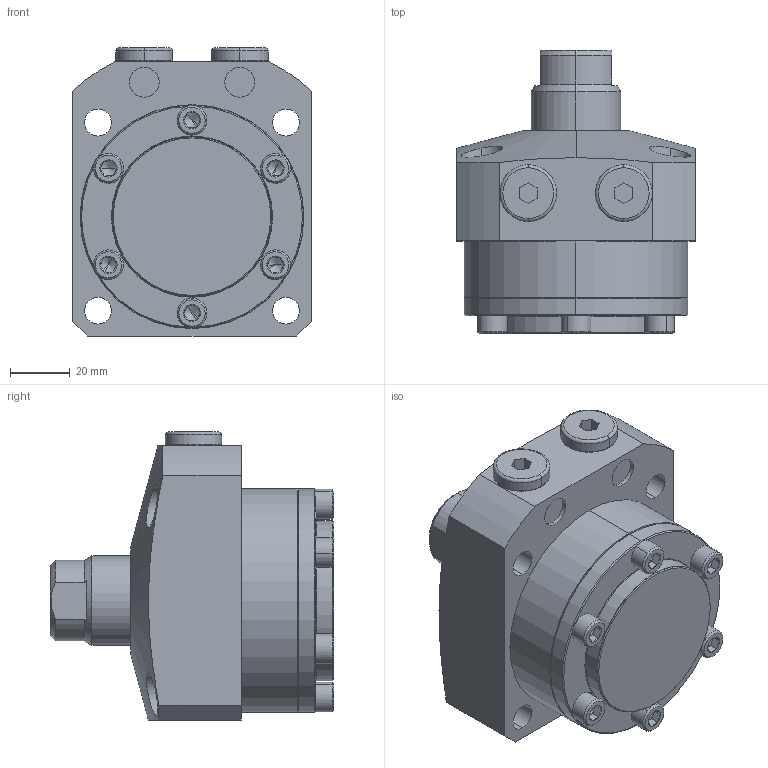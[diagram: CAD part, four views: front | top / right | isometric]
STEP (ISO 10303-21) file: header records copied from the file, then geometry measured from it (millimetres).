
FILE_DESCRIPTION (( 'STEP AP203' ), '1' );
FILE_NAME ('680750-CA-015.step', '2016-11-02T03:27:52', ( 'wxp' ), ( '' ), 'SwSTEP 2.0', 'SolidWorks 2011', '' );
FILE_SCHEMA (( 'CONFIG_CONTROL_DESIGN' ));
Length unit declared in the file: millimetre
Products named in the file (6): 680750-CA-015; 68075-CA-15-5^680750-CA-015; 68075-CA-15-4^680750-CA-015; 68075-CA-15-3^680750-CA-015; 68075-CA-15-2^680750-CA-015; 68075-CA-15-1^680750-CA-015
Assembly tree (11 placements, depth 2):
  680750-CA-015
    68075-CA-15-2^680750-CA-015
    68075-CA-15-4^680750-CA-015  x6
    68075-CA-15-3^680750-CA-015
    68075-CA-15-5^680750-CA-015  x2
    68075-CA-15-1^680750-CA-015
Bounding box: 80 x 95 x 96.5 mm (x, y, z)
Volume: 355133.1 mm3; surface area: 57991.7 mm2
Topology: 11 solids, 11 shells, 341 faces, 669 edges, 366 vertices
Faces by surface type: plane 138, cone 96, cylinder 91, torus 16
Entity records: 5653 total; most frequent: CARTESIAN_POINT 1234, DIRECTION 841, ORIENTED_EDGE 686, AXIS2_PLACEMENT_3D 352, EDGE_CURVE 343, VERTEX_POINT 209, EDGE_LOOP 198, CIRCLE 178
